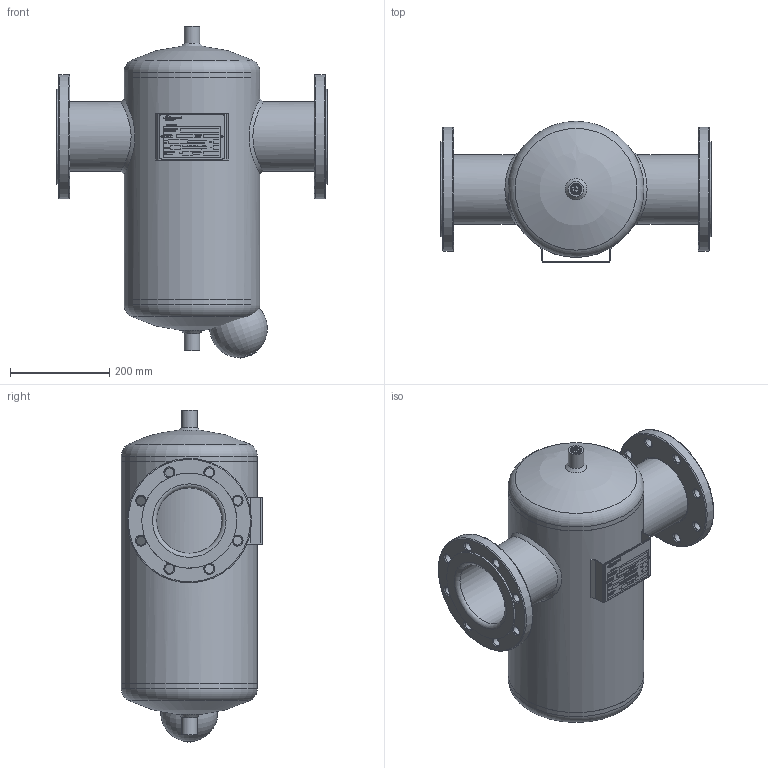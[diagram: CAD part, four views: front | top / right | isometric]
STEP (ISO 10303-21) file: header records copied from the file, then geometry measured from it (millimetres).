
FILE_DESCRIPTION(/* description */ ('Unknown'),/* implementation_level */ '2;1');
FILE_NAME(/* name */ 'DFL125',/* time_stamp */ '2020-01-28T15:24:51+01:00',/* author */ ('Unknown'),/* organization */ ('Unknown'),/* preprocessor_version */ 'ST-DEVELOPER v16.7',/* originating_system */ 'DEX',/* authorisation */ $);
FILE_SCHEMA (('AUTOMOTIVE_DESIGN {1 0 10303 214 3 1 1}'));
Length unit declared in the file: millimetre
Products named in the file (1): DFL125
Bounding box: 544 x 284.1 x 667.52 mm (x, y, z)
Volume: 32729071.7 mm3; surface area: 1141805.7 mm2
Topology: 1 solids, 3 shells, 3109 faces, 7767 edges, 5147 vertices
Faces by surface type: plane 2156, bspline 802, cylinder 79, torus 51, cone 19, sphere 2
Full cylindrical faces by diameter (mm): 3.8 x2, 4.917 x1, 9.231 x1, 18 x16, 19 x1, 31.17 x2, 34.1 x1, 37 x1, 40 x1, 40.2 x1, 48 x1, 49 x1, 52 x1, 62 x1, 65 x1, 131.7 x2, 139.7 x2, 141.5 x2, 191 x2, 250 x2, 273 x1, 273.2 x2
Entity records: 159769 total; most frequent: CARTESIAN_POINT 73450, ORIENTED_EDGE 15078, DIRECTION 9010, EDGE_CURVE 7539, VERTEX_POINT 5103, LINE 3844, VECTOR 3844, FACE_BOUND 3812
